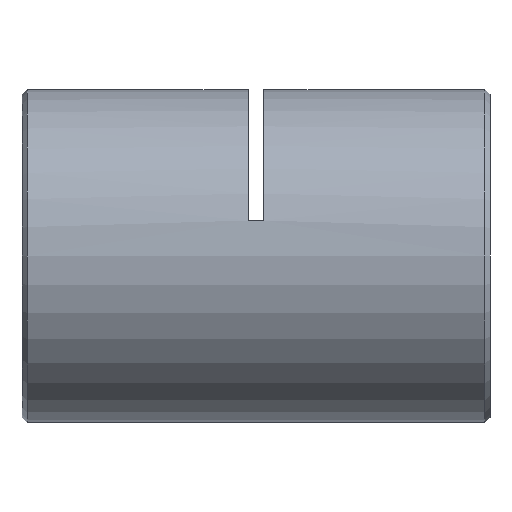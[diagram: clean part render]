
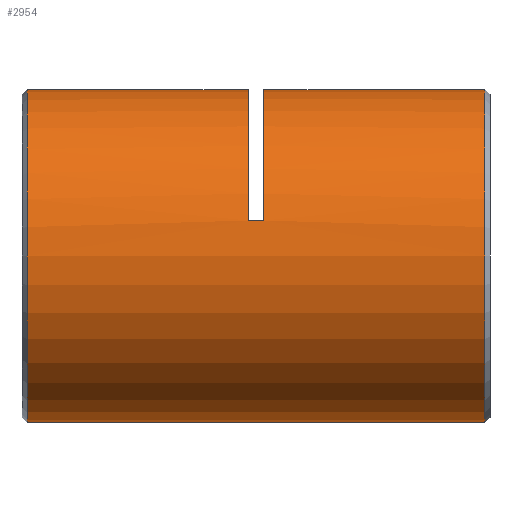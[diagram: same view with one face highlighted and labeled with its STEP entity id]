
A CAD part, left-side view. The second image highlights one B-rep face of the part: STEP entity #2954.
In plain terms, the highlighted cylindrical face has radius 16 mm (diameter 32 mm), a partial arc.
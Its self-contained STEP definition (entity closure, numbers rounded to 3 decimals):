
#155 = DIRECTION ( 'NONE',  ( 0., 1., 0. ) ) ;
#422 = CARTESIAN_POINT ( 'NONE',  ( -15.632, 22., 3.413 ) ) ;
#715 = ORIENTED_EDGE ( 'NONE', *, *, #5939, .T. ) ;
#783 = CARTESIAN_POINT ( 'NONE',  ( 0., 23.5, 0. ) ) ;
#786 = DIRECTION ( 'NONE',  ( 0., 1., 0. ) ) ;
#798 = VERTEX_POINT ( 'NONE', #422 ) ;
#815 = AXIS2_PLACEMENT_3D ( 'NONE', #3836, #4856, #2243 ) ;
#867 = DIRECTION ( 'NONE',  ( 0., 0., 1. ) ) ;
#908 = DIRECTION ( 'NONE',  ( 0., 1., 0. ) ) ;
#935 = DIRECTION ( 'NONE',  ( 0., -1., 0. ) ) ;
#1054 = DIRECTION ( 'NONE',  ( 0., 1., 0. ) ) ;
#1309 = VERTEX_POINT ( 'NONE', #1800 ) ;
#1393 = VERTEX_POINT ( 'NONE', #2999 ) ;
#1414 = ORIENTED_EDGE ( 'NONE', *, *, #1683, .T. ) ;
#1466 = AXIS2_PLACEMENT_3D ( 'NONE', #2571, #1054, #5007 ) ;
#1488 = CARTESIAN_POINT ( 'NONE',  ( 0., 0.75, 16. ) ) ;
#1644 = CIRCLE ( 'NONE', #5566, 16. ) ;
#1649 = EDGE_CURVE ( 'NONE', #3005, #3907, #4785, .T. ) ;
#1683 = EDGE_CURVE ( 'NONE', #1393, #5422, #2683, .T. ) ;
#1712 = ORIENTED_EDGE ( 'NONE', *, *, #5034, .T. ) ;
#1800 = CARTESIAN_POINT ( 'NONE',  ( -15.632, 23.5, 3.413 ) ) ;
#1831 = EDGE_LOOP ( 'NONE', ( #3192, #1414, #5840, #2739, #1712, #715, #5965, #3369 ) ) ;
#1934 = DIRECTION ( 'NONE',  ( 0., 0., -1. ) ) ;
#2044 = FACE_OUTER_BOUND ( 'NONE', #1831, .T. ) ;
#2046 = AXIS2_PLACEMENT_3D ( 'NONE', #783, #6208, #5726 ) ;
#2166 = AXIS2_PLACEMENT_3D ( 'NONE', #5367, #935, #1934 ) ;
#2243 = DIRECTION ( 'NONE',  ( 0., 0., 1. ) ) ;
#2267 = CIRCLE ( 'NONE', #2166, 16. ) ;
#2564 = VECTOR ( 'NONE', #2617, 1000. ) ;
#2571 = CARTESIAN_POINT ( 'NONE',  ( 0., 0., 0. ) ) ;
#2617 = DIRECTION ( 'NONE',  ( 0., 1., 0. ) ) ;
#2683 = CIRCLE ( 'NONE', #815, 16. ) ;
#2728 = CARTESIAN_POINT ( 'NONE',  ( 0., 44.75, -16. ) ) ;
#2738 = LINE ( 'NONE', #4695, #5659 ) ;
#2739 = ORIENTED_EDGE ( 'NONE', *, *, #5230, .F. ) ;
#2954 = ADVANCED_FACE ( 'NONE', ( #2044 ), #3493, .T. ) ;
#2999 = CARTESIAN_POINT ( 'NONE',  ( 0., 0.75, -16. ) ) ;
#3005 = VERTEX_POINT ( 'NONE', #4466 ) ;
#3192 = ORIENTED_EDGE ( 'NONE', *, *, #3865, .F. ) ;
#3369 = ORIENTED_EDGE ( 'NONE', *, *, #6257, .T. ) ;
#3493 = CYLINDRICAL_SURFACE ( 'NONE', #1466, 16. ) ;
#3509 = CARTESIAN_POINT ( 'NONE',  ( -15.632, 22.75, 3.413 ) ) ;
#3604 = VECTOR ( 'NONE', #908, 1000. ) ;
#3836 = CARTESIAN_POINT ( 'NONE',  ( 0., 0.75, 0. ) ) ;
#3865 = EDGE_CURVE ( 'NONE', #1393, #5763, #4934, .T. ) ;
#3907 = VERTEX_POINT ( 'NONE', #5333 ) ;
#3946 = CARTESIAN_POINT ( 'NONE',  ( 0., 0., -16. ) ) ;
#4015 = CIRCLE ( 'NONE', #2046, 16. ) ;
#4278 = VERTEX_POINT ( 'NONE', #5497 ) ;
#4351 = CARTESIAN_POINT ( 'NONE',  ( 0., 22., 0. ) ) ;
#4466 = CARTESIAN_POINT ( 'NONE',  ( 0., 23.5, 16. ) ) ;
#4695 = CARTESIAN_POINT ( 'NONE',  ( 0., 0., 16. ) ) ;
#4785 = LINE ( 'NONE', #4814, #5472 ) ;
#4814 = CARTESIAN_POINT ( 'NONE',  ( 0., 0., 16. ) ) ;
#4856 = DIRECTION ( 'NONE',  ( 0., 1., 0. ) ) ;
#4881 = EDGE_CURVE ( 'NONE', #5422, #4278, #2738, .T. ) ;
#4934 = LINE ( 'NONE', #3946, #3604 ) ;
#4993 = LINE ( 'NONE', #3509, #2564 ) ;
#5007 = DIRECTION ( 'NONE',  ( 0., 0., 1. ) ) ;
#5034 = EDGE_CURVE ( 'NONE', #798, #1309, #4993, .T. ) ;
#5230 = EDGE_CURVE ( 'NONE', #798, #4278, #1644, .T. ) ;
#5333 = CARTESIAN_POINT ( 'NONE',  ( 0., 44.75, 16. ) ) ;
#5364 = DIRECTION ( 'NONE',  ( 0., 1., 0. ) ) ;
#5367 = CARTESIAN_POINT ( 'NONE',  ( 0., 44.75, 0. ) ) ;
#5422 = VERTEX_POINT ( 'NONE', #1488 ) ;
#5472 = VECTOR ( 'NONE', #786, 1000. ) ;
#5497 = CARTESIAN_POINT ( 'NONE',  ( 0., 22., 16. ) ) ;
#5566 = AXIS2_PLACEMENT_3D ( 'NONE', #4351, #5364, #867 ) ;
#5659 = VECTOR ( 'NONE', #155, 1000. ) ;
#5726 = DIRECTION ( 'NONE',  ( 0., 0., 1. ) ) ;
#5763 = VERTEX_POINT ( 'NONE', #2728 ) ;
#5840 = ORIENTED_EDGE ( 'NONE', *, *, #4881, .T. ) ;
#5939 = EDGE_CURVE ( 'NONE', #1309, #3005, #4015, .T. ) ;
#5965 = ORIENTED_EDGE ( 'NONE', *, *, #1649, .T. ) ;
#6208 = DIRECTION ( 'NONE',  ( 0., 1., 0. ) ) ;
#6257 = EDGE_CURVE ( 'NONE', #3907, #5763, #2267, .T. ) ;
